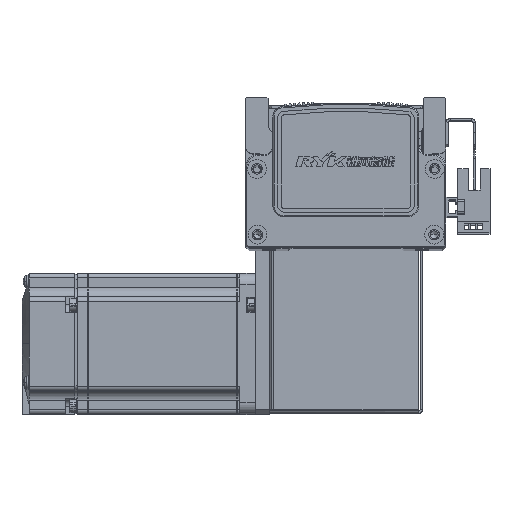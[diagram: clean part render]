
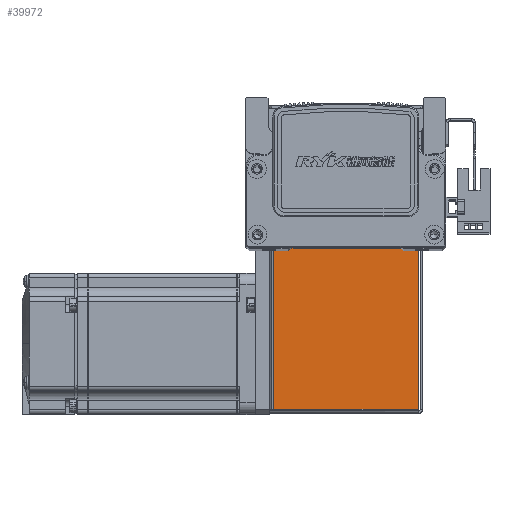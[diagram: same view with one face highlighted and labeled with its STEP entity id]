
A CAD part, top view. The second image highlights one B-rep face of the part: STEP entity #39972.
In plain terms, the highlighted planar face has unit normal (0, 0, 1) as drawn and (0, 0, -1) by its records, which use the part's own axes.
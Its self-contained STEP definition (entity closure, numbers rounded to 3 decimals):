
#4531 = AXIS2_PLACEMENT_3D ( 'NONE', #27469, #27462, #27470 ) ;
#13487 = EDGE_CURVE ( 'NONE', #47267, #47288, #63288, .T. ) ;
#13535 = EDGE_CURVE ( 'NONE', #47319, #47288, #63357, .T. ) ;
#13575 = EDGE_CURVE ( 'NONE', #47348, #47267, #63330, .T. ) ;
#13668 = EDGE_CURVE ( 'NONE', #47319, #47348, #63366, .T. ) ;
#16706 = ORIENTED_EDGE ( 'NONE', *, *, #13668, .T. ) ;
#16724 = ORIENTED_EDGE ( 'NONE', *, *, #13575, .T. ) ;
#16736 = ORIENTED_EDGE ( 'NONE', *, *, #13535, .F. ) ;
#16740 = ORIENTED_EDGE ( 'NONE', *, *, #13487, .T. ) ;
#25916 = FACE_OUTER_BOUND ( 'NONE', #29728, .T. ) ;
#27461 = PLANE ( 'NONE',  #4531 ) ;
#27462 = DIRECTION ( 'NONE',  ( 0., 0., 1. ) ) ;
#27469 = CARTESIAN_POINT ( 'NONE',  ( 0., 0., -35. ) ) ;
#27470 = DIRECTION ( 'NONE',  ( 0., -1., 0. ) ) ;
#29728 = EDGE_LOOP ( 'NONE', ( #16740, #16736, #16706, #16724 ) ) ;
#39972 = ADVANCED_FACE ( 'NONE', ( #25916 ), #27461, .F. ) ;
#43039 = CARTESIAN_POINT ( 'NONE',  ( 30.763, 72.5, -35. ) ) ;
#43101 = CARTESIAN_POINT ( 'NONE',  ( 30.763, 0.737, -35. ) ) ;
#43114 = CARTESIAN_POINT ( 'NONE',  ( -30.793, 0.737, -35. ) ) ;
#43121 = CARTESIAN_POINT ( 'NONE',  ( -30.793, 72.5, -35. ) ) ;
#47267 = VERTEX_POINT ( 'NONE', #43039 ) ;
#47288 = VERTEX_POINT ( 'NONE', #43101 ) ;
#47319 = VERTEX_POINT ( 'NONE', #43114 ) ;
#47348 = VERTEX_POINT ( 'NONE', #43121 ) ;
#63278 = VECTOR ( 'NONE', #64224, 1000. ) ;
#63288 = LINE ( 'NONE', #64220, #63278 ) ;
#63330 = LINE ( 'NONE', #64364, #63343 ) ;
#63334 = VECTOR ( 'NONE', #64303, 1000. ) ;
#63343 = VECTOR ( 'NONE', #64341, 1000. ) ;
#63357 = LINE ( 'NONE', #64309, #63334 ) ;
#63365 = VECTOR ( 'NONE', #64461, 1000. ) ;
#63366 = LINE ( 'NONE', #64475, #63365 ) ;
#64220 = CARTESIAN_POINT ( 'NONE',  ( 30.763, 72.5, -35. ) ) ;
#64224 = DIRECTION ( 'NONE',  ( 0., -1., 0. ) ) ;
#64303 = DIRECTION ( 'NONE',  ( 1., 0., 0. ) ) ;
#64309 = CARTESIAN_POINT ( 'NONE',  ( 32.5, 0.737, -35. ) ) ;
#64341 = DIRECTION ( 'NONE',  ( 1., 0., 0. ) ) ;
#64364 = CARTESIAN_POINT ( 'NONE',  ( 0., 72.5, -35. ) ) ;
#64461 = DIRECTION ( 'NONE',  ( 0., 1., 0. ) ) ;
#64475 = CARTESIAN_POINT ( 'NONE',  ( -30.793, 0., -35. ) ) ;
